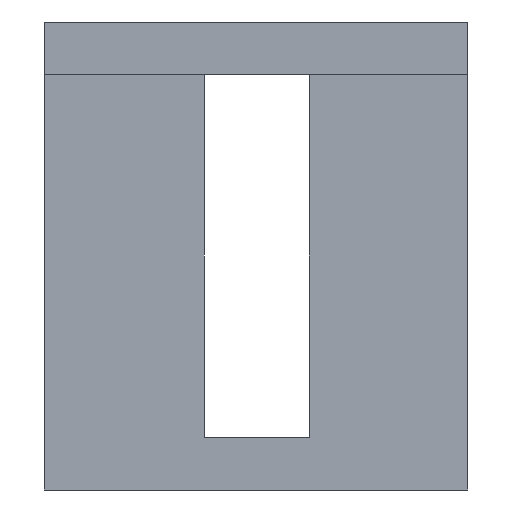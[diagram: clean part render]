
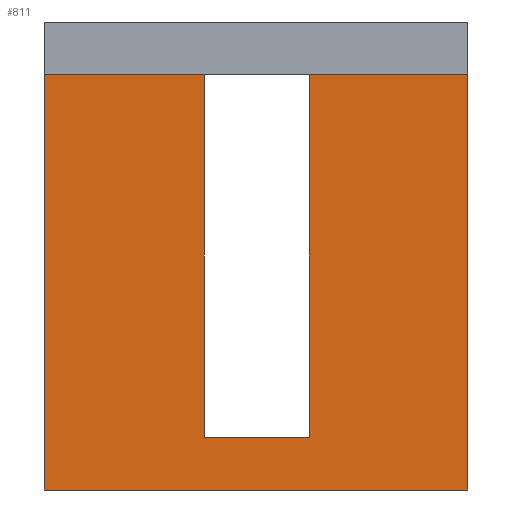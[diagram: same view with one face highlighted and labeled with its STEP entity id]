
A CAD part, left-side view. The second image highlights one B-rep face of the part: STEP entity #811.
In plain terms, the highlighted planar face has unit normal (-1, 0, 0).
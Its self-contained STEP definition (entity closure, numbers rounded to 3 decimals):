
#51=FACE_OUTER_BOUND('',#90,.T.);
#90=EDGE_LOOP('',(#621,#622,#623,#624,#625,#626,#627,#628));
#170=LINE('',#1182,#280);
#177=LINE('',#1196,#287);
#187=LINE('',#1216,#297);
#188=LINE('',#1218,#298);
#189=LINE('',#1220,#299);
#190=LINE('',#1221,#300);
#191=LINE('',#1223,#301);
#192=LINE('',#1224,#302);
#280=VECTOR('',#965,10.);
#287=VECTOR('',#974,10.);
#297=VECTOR('',#990,10.);
#298=VECTOR('',#991,10.);
#299=VECTOR('',#992,10.);
#300=VECTOR('',#993,10.);
#301=VECTOR('',#994,10.);
#302=VECTOR('',#995,10.);
#377=VERTEX_POINT('',#1179);
#378=VERTEX_POINT('',#1181);
#383=VERTEX_POINT('',#1193);
#384=VERTEX_POINT('',#1195);
#391=VERTEX_POINT('',#1215);
#392=VERTEX_POINT('',#1217);
#393=VERTEX_POINT('',#1219);
#394=VERTEX_POINT('',#1222);
#466=EDGE_CURVE('',#377,#378,#170,.T.);
#473=EDGE_CURVE('',#383,#384,#177,.T.);
#483=EDGE_CURVE('',#391,#383,#187,.T.);
#484=EDGE_CURVE('',#392,#391,#188,.T.);
#485=EDGE_CURVE('',#393,#392,#189,.T.);
#486=EDGE_CURVE('',#378,#393,#190,.T.);
#487=EDGE_CURVE('',#394,#377,#191,.T.);
#488=EDGE_CURVE('',#384,#394,#192,.T.);
#621=ORIENTED_EDGE('',*,*,#483,.F.);
#622=ORIENTED_EDGE('',*,*,#484,.F.);
#623=ORIENTED_EDGE('',*,*,#485,.F.);
#624=ORIENTED_EDGE('',*,*,#486,.F.);
#625=ORIENTED_EDGE('',*,*,#466,.F.);
#626=ORIENTED_EDGE('',*,*,#487,.F.);
#627=ORIENTED_EDGE('',*,*,#488,.F.);
#628=ORIENTED_EDGE('',*,*,#473,.F.);
#776=PLANE('',#862);
#811=ADVANCED_FACE('',(#51),#776,.F.);
#862=AXIS2_PLACEMENT_3D('',#1214,#988,#989);
#965=DIRECTION('',(0.,0.,-1.));
#974=DIRECTION('',(0.,-1.,0.));
#988=DIRECTION('center_axis',(1.,0.,0.));
#989=DIRECTION('ref_axis',(0.,0.,-1.));
#990=DIRECTION('',(0.,0.,-1.));
#991=DIRECTION('',(0.,-1.,0.));
#992=DIRECTION('',(0.,0.,1.));
#993=DIRECTION('',(0.,1.,0.));
#994=DIRECTION('',(0.,-1.,0.));
#995=DIRECTION('',(0.,0.,1.));
#1179=CARTESIAN_POINT('',(-12.4,-8.05,15.8));
#1181=CARTESIAN_POINT('',(-12.4,-8.05,0.));
#1182=CARTESIAN_POINT('',(-12.4,-8.05,3.95));
#1193=CARTESIAN_POINT('',(-12.4,1.975,2.));
#1195=CARTESIAN_POINT('',(-12.4,-2.025,2.));
#1196=CARTESIAN_POINT('',(-12.4,-0.001,2.));
#1214=CARTESIAN_POINT('Origin',(-12.4,-0.001,7.9));
#1215=CARTESIAN_POINT('',(-12.4,1.975,15.8));
#1216=CARTESIAN_POINT('',(-12.4,1.975,4.95));
#1217=CARTESIAN_POINT('',(-12.4,8.048,15.8));
#1218=CARTESIAN_POINT('',(-12.4,-8.05,15.8));
#1219=CARTESIAN_POINT('',(-12.4,8.048,0.));
#1220=CARTESIAN_POINT('',(-12.4,8.048,3.95));
#1221=CARTESIAN_POINT('',(-12.4,-0.001,0.));
#1222=CARTESIAN_POINT('',(-12.4,-2.025,15.8));
#1223=CARTESIAN_POINT('',(-12.4,-8.05,15.8));
#1224=CARTESIAN_POINT('',(-12.4,-2.025,11.85));
